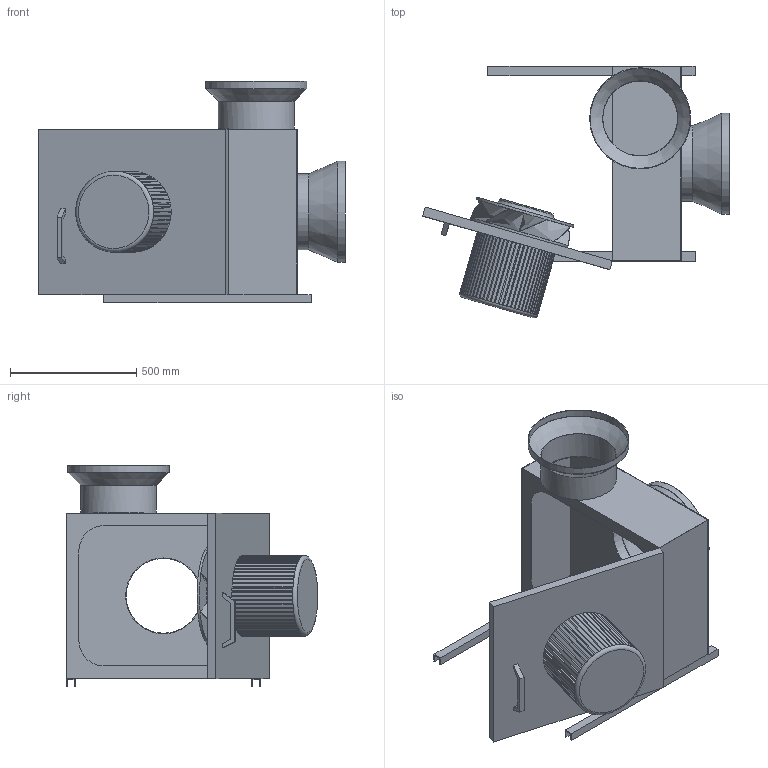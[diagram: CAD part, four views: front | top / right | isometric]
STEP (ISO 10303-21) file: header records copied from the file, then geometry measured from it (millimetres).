
FILE_DESCRIPTION(/* description */ (''),/* implementation_level */ '2;1');
FILE_NAME(/* name */ 'Z:\Output\MBW_400-4_TK-05953-016.stp',/* time_stamp */ '2017-10-27T14:40:38+02:00',/* author */ ('jayeshpanchal'),/* organization */ (''),/* preprocessor_version */ 'ST-DEVELOPER v16.5',/* originating_system */ 'Autodesk Inventor 2017',/* authorisation */ '');
FILE_SCHEMA (('AUTOMOTIVE_DESIGN { 1 0 10303 214 3 1 1 }'));
Length unit declared in the file: millimetre
Products named in the file (1): MB-2
Bounding box: 1213.09 x 995.31 x 878 mm (x, y, z)
Volume: 45176742.5 mm3; surface area: 6102605 mm2
Topology: 2 solids, 4 shells, 450 faces, 1162 edges, 706 vertices
Faces by surface type: plane 342, cylinder 77, bspline 24, cone 5, torus 2
Full cylindrical faces by diameter (mm): 200 x1, 220 x1, 296 x2, 300 x3, 396 x2, 400 x4
Entity records: 13757 total; most frequent: CARTESIAN_POINT 2851, ORIENTED_EDGE 2274, DIRECTION 2227, EDGE_CURVE 1134, LINE 847, VECTOR 847, VERTEX_POINT 698, AXIS2_PLACEMENT_3D 690
